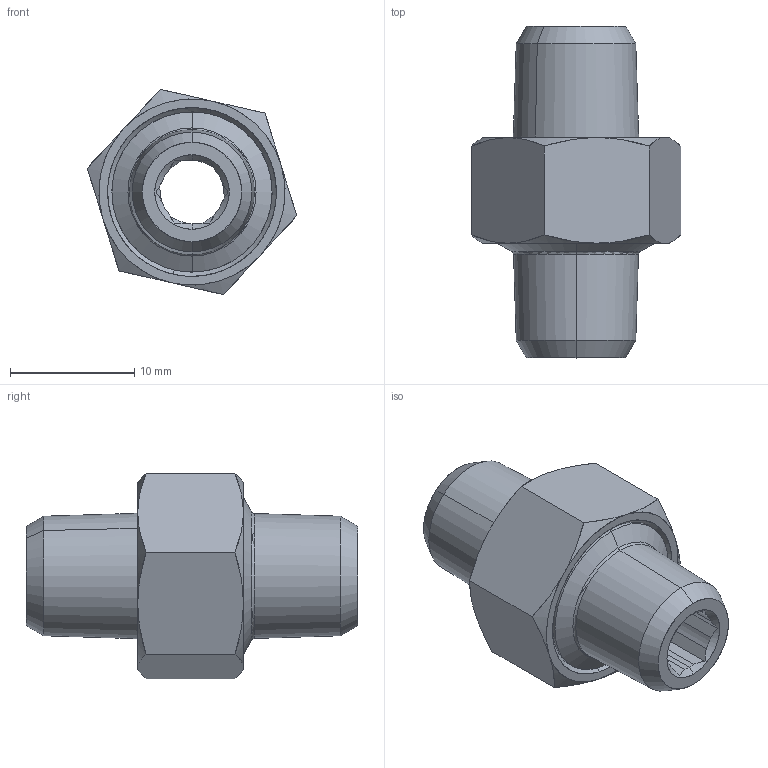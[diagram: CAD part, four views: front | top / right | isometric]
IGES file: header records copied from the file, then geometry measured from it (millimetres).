
Start section: SolidWorks IGES file using analytic representation for surfaces
Global section: file name: K:\Disegni Esecutivi\Accessori\2060\ASSIEMI_PIENI_2060\0206000001.IGS; native system: SolidWorks 2007; preprocessor: SolidWorks 2007; author: cad02; date: 071019.081522; units: millimetre
Bounding box: 16.89 x 26.74 x 16.55 mm (x, y, z)
Surface area: 1905.1 mm2 (no closed solid volume)
Topology: 0 solids, 0 shells, 100 faces, 1080 edges, 1080 vertices
Faces by surface type: revolution 60, bspline 40
